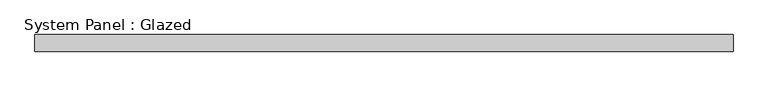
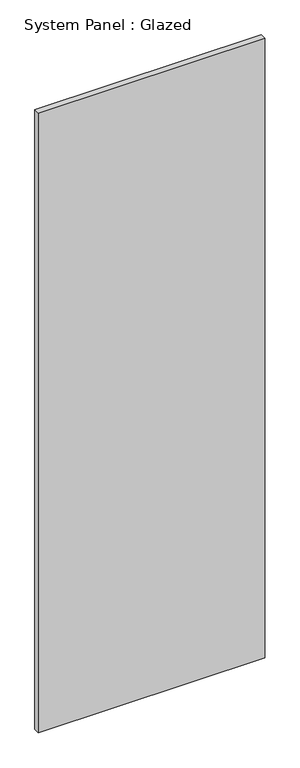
"""IFC4 building model written with IfcOpenShell, lengths in millimetres: plate geometry, System Panel : Glazed."""

from ifc_helpers import new_model, si_unit, origin, origin_with_axes, place, context, project, spatial, polyline, outline, extrude, source, transform, mapped, element, save


def system_panel_glazed_6ca856d2(model_context):
    return source(origin(), model_context, "Body", "SweptSolid", [
        extrude(outline(polyline([(516.25, -72.5), (-516.25, -72.5), (-516.25, -47.5), (516.25, -47.5), (516.25, -72.5)])), origin_with_axes(), (0.0, 0.0, 1.0), 2987.4038106),
    ])


if __name__ == "__main__":
    model = new_model("IFC4")
    model_context = context("Model", 3, world=origin())
    ifc_project = project(units=[si_unit("LENGTHUNIT", "METRE", prefix="MILLI")], contexts=[model_context])
    site = spatial("IfcSite", under=ifc_project)
    building = spatial("IfcBuilding", under=site)
    placement = place(None, origin())
    system_panel_glazed_shape = system_panel_glazed_6ca856d2(model_context)
    element("IfcPlate", 1, ObjectType="System Panel : Glazed", at=placement, inside=building, context=model_context, shape_type="MappedRepresentation", body=[
        mapped(system_panel_glazed_shape, transform((0.0, 0.0, 0.0), x_axis=(1.0, 0.0, 0.0), y_axis=(0.0, 1.0, 0.0), z_axis=(0.0, 0.0, 1.0))),
    ])
    save(model, "model.ifc")
